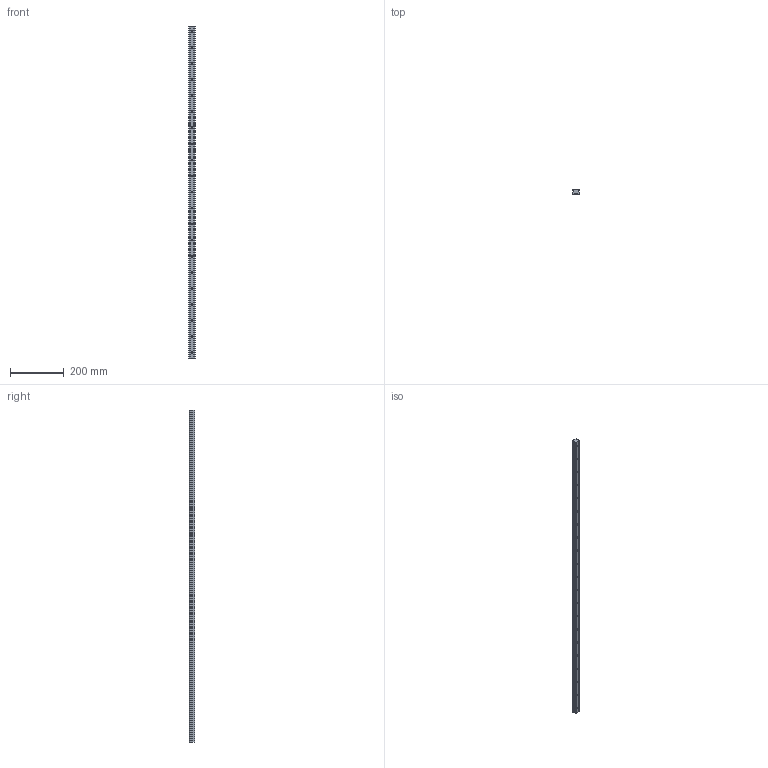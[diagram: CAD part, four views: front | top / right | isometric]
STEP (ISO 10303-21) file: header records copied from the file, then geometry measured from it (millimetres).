
FILE_DESCRIPTION (( 'STEP AP203' ), '1' );
FILE_NAME ('L1016.BRF25-1240.step', '2019-06-13T08:37:32', ( '' ), ( '' ), 'SwSTEP 2.0', 'SolidWorks 2017', '' );
FILE_SCHEMA (( 'CONFIG_CONTROL_DESIGN' ));
Length unit declared in the file: millimetre
Products named in the file (1): L1016.BRF25-1240
Bounding box: 23 x 19.2 x 1240 mm (x, y, z)
Volume: 473358.3 mm3; surface area: 114614.5 mm2
Topology: 1 solids, 1 shells, 173 faces, 408 edges, 237 vertices
Faces by surface type: cylinder 88, plane 43, cone 42
Entity records: 4765 total; most frequent: DIRECTION 890, CARTESIAN_POINT 777, ORIENTED_EDGE 732, EDGE_CURVE 366, AXIS2_PLACEMENT_3D 350, VERTEX_POINT 237, EDGE_LOOP 215, LINE 190
